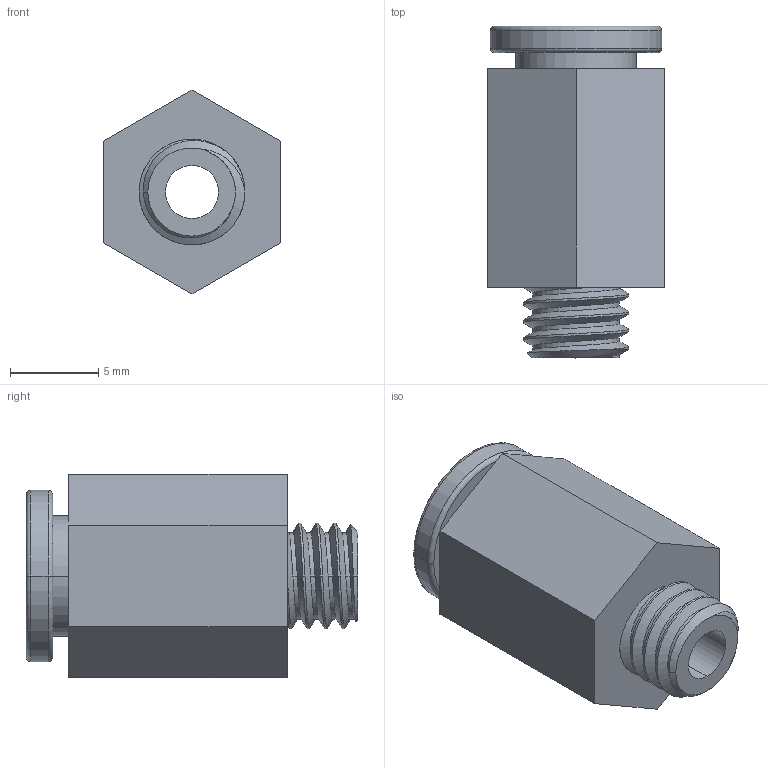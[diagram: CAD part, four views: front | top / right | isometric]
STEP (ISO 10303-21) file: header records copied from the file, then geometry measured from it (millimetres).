
FILE_DESCRIPTION (( 'STEP AP214' ), '1' );
FILE_NAME ('KQ2H06-M6A.step.step', '2022-12-08T07:50:43', ( '' ), ( '' ), 'SwSTEP 2.0', 'SolidWorks 2022', '' );
FILE_SCHEMA (( 'AUTOMOTIVE_DESIGN' ));
Length unit declared in the file: millimetre
Products named in the file (3): KQ2H06-M6A.step; KQ2H06-M6A.step_BUTTON_06; KQ2H06-M6A.step_STUD_M_M6
Assembly tree (2 placements, depth 2):
  KQ2H06-M6A.step
    KQ2H06-M6A.step_STUD_M_M6
    KQ2H06-M6A.step_BUTTON_06
Bounding box: 10 x 18.8 x 11.55 mm (x, y, z)
Volume: 892.6 mm3; surface area: 1610.3 mm2
Topology: 2 solids, 2 shells, 53 faces, 131 edges, 85 vertices
Faces by surface type: cylinder 29, plane 13, torus 6, cone 3, bspline 2
Entity records: 2295 total; most frequent: CARTESIAN_POINT 1006, ORIENTED_EDGE 262, DIRECTION 243, EDGE_CURVE 131, AXIS2_PLACEMENT_3D 98, VERTEX_POINT 85, EDGE_LOOP 60, FACE_OUTER_BOUND 53
